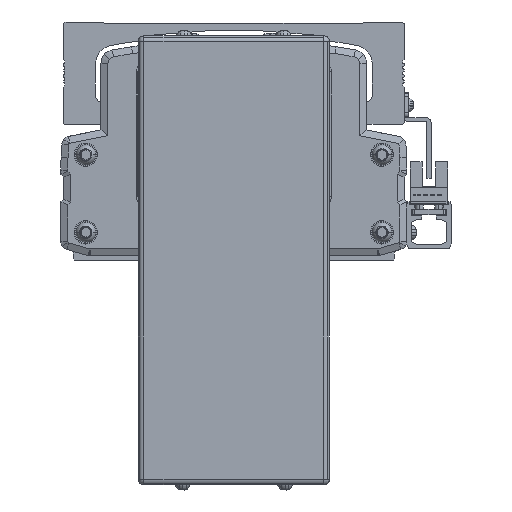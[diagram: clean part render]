
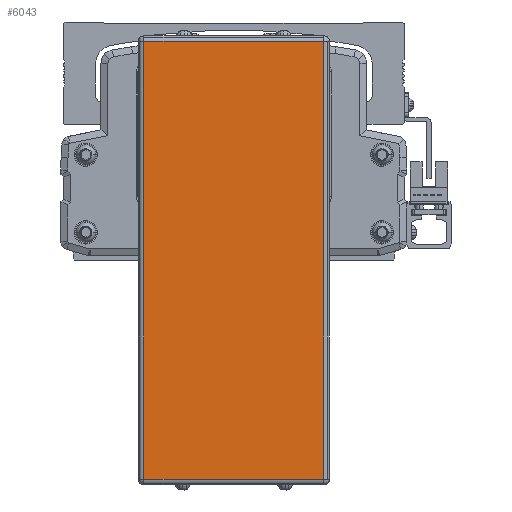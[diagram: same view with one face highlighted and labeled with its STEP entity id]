
A CAD part, front view. The second image highlights one B-rep face of the part: STEP entity #6043.
In plain terms, the highlighted planar face has unit normal (0, -1, 0).
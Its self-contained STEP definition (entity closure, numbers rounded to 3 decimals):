
#6043=ADVANCED_FACE('',(#13097),#13098,.T.);
#13097=FACE_OUTER_BOUND('',#22271,.T.);
#13098=PLANE('',#22272);
#22271=EDGE_LOOP('',(#39911,#39912,#39913,#39914));
#22272=AXIS2_PLACEMENT_3D('',#39915,#39916,#39917);
#39911=ORIENTED_EDGE('',*,*,#51173,.F.);
#39912=ORIENTED_EDGE('',*,*,#54272,.F.);
#39913=ORIENTED_EDGE('',*,*,#53879,.F.);
#39914=ORIENTED_EDGE('',*,*,#52419,.F.);
#39915=CARTESIAN_POINT('',(-299.996,-188.778,-49.1));
#39916=DIRECTION('',(0.,-1.0,0.));
#39917=DIRECTION('',(1.0,0.,0.));
#51173=EDGE_CURVE('',#60562,#61393,#61394,.T.);
#52419=EDGE_CURVE('',#61393,#63556,#63557,.T.);
#53879=EDGE_CURVE('',#63556,#63199,#65895,.T.);
#54272=EDGE_CURVE('',#63199,#60562,#66464,.T.);
#60562=VERTEX_POINT('',#74668);
#61393=VERTEX_POINT('',#75890);
#61394=LINE('',#75891,#75892);
#63199=VERTEX_POINT('',#78399);
#63556=VERTEX_POINT('',#78880);
#63557=LINE('',#78881,#78882);
#65895=LINE('',#82236,#82237);
#66464=LINE('',#83067,#83068);
#74668=CARTESIAN_POINT('',(-267.496,-188.778,30.));
#75890=CARTESIAN_POINT('',(-267.496,-188.778,-128.2));
#75891=CARTESIAN_POINT('',(-267.496,-188.778,-49.1));
#75892=VECTOR('',#94381,10.0);
#78399=CARTESIAN_POINT('',(-332.496,-188.778,30.));
#78880=CARTESIAN_POINT('',(-332.496,-188.778,-128.2));
#78881=CARTESIAN_POINT('',(-299.996,-188.778,-128.2));
#78882=VECTOR('',#96195,10.0);
#82236=CARTESIAN_POINT('',(-332.496,-188.778,-49.1));
#82237=VECTOR('',#98093,10.0);
#83067=CARTESIAN_POINT('',(-299.996,-188.778,30.));
#83068=VECTOR('',#98540,10.0);
#94381=DIRECTION('',(0.0,0.,-1.0));
#96195=DIRECTION('',(-1.0,0.,0.));
#98093=DIRECTION('',(0.0,0.,1.0));
#98540=DIRECTION('',(1.0,0.,0.));
